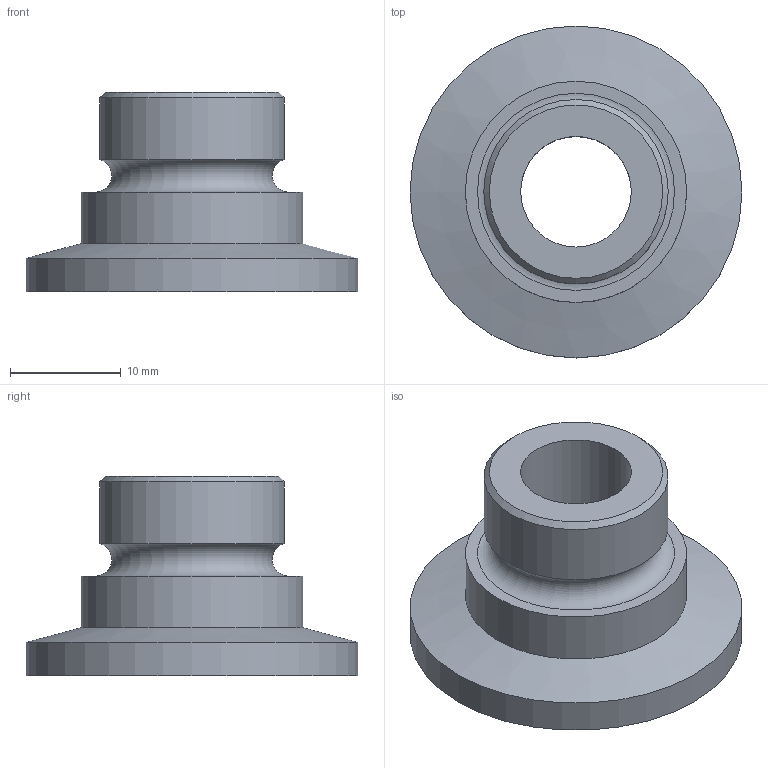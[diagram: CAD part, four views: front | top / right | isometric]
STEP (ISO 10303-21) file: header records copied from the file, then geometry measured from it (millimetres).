
FILE_DESCRIPTION( ( 'Unknown' ), '1' );
FILE_NAME( 'X:/Daten ( aktueller Bestand )/Projekte und Zeichnungen/Solid Edge/STP-Dateien/KF/1581.stp', 'Unknown', ( 'Unknown' ), ( 'Unknown' ), 'PSStep 14.0', 'Unknown', ' ' );
FILE_SCHEMA( ( 'AUTOMOTIVE_DESIGN { 1 0 10303 214 1 1 1 1 }' ) );
Length unit declared in the file: millimetre
Products named in the file (1): 1
Bounding box: 30 x 30 x 18 mm (x, y, z)
Volume: 4584 mm3; surface area: 2916.3 mm2
Topology: 1 solids, 1 shells, 12 faces, 21 edges, 13 vertices
Faces by surface type: cylinder 5, plane 4, cone 2, torus 1
Full cylindrical faces by diameter (mm): 10 x1, 12.2 x1, 16.662 x1, 20 x1, 30 x1
Entity records: 360 total; most frequent: DIRECTION 50, CARTESIAN_POINT 37, AXIS2_PLACEMENT_3D 25, EDGE_LOOP 24, ORIENTED_EDGE 24, FACE_OUTER_BOUND 18, STYLED_ITEM 12, PRESENTATION_STYLE_ASSIGNMENT 12
